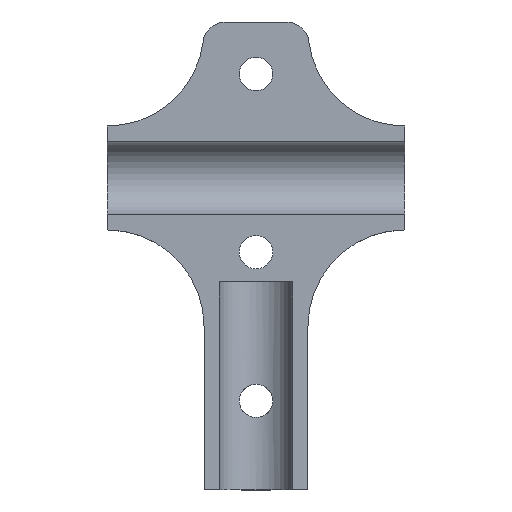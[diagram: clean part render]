
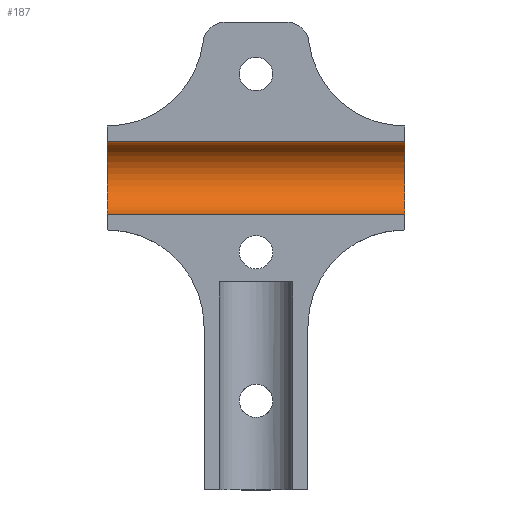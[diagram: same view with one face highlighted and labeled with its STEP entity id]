
A CAD part, top view. The second image highlights one B-rep face of the part: STEP entity #187.
In plain terms, the highlighted cylindrical face has radius 4.95 mm (diameter 9.9 mm), a partial arc.
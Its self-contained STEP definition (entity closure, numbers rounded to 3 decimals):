
#73=CARTESIAN_POINT('',(20.0,11.925,8.5));
#74=VERTEX_POINT('',#73);
#75=CARTESIAN_POINT('',(-20.0,11.925,8.5));
#76=VERTEX_POINT('',#75);
#77=CARTESIAN_POINT('',(20.0,11.925,8.5));
#78=DIRECTION('',(-1.0,0.0,0.0));
#79=VECTOR('',#78,40.0);
#80=LINE('',#77,#79);
#81=EDGE_CURVE('',#74,#76,#80,.T.);
#155=CARTESIAN_POINT('',(20.0,7.0,9.0));
#156=DIRECTION('',(-1.0,0.0,0.0));
#157=DIRECTION('',(0.0,0.0,1.0));
#158=AXIS2_PLACEMENT_3D('',#155,#156,#157);
#159=CYLINDRICAL_SURFACE('',#158,4.95);
#160=ORIENTED_EDGE('',*,*,#81,.T.);
#161=CARTESIAN_POINT('',(-20.0,2.05,9.0));
#162=VERTEX_POINT('',#161);
#163=CARTESIAN_POINT('',(-20.0,7.0,9.0));
#164=DIRECTION('',(1.0,0.0,0.0));
#165=DIRECTION('',(0.0,0.0,1.0));
#166=AXIS2_PLACEMENT_3D('',#163,#164,#165);
#167=CIRCLE('',#166,4.95);
#168=EDGE_CURVE('',#162,#76,#167,.T.);
#169=ORIENTED_EDGE('',*,*,#168,.F.);
#170=CARTESIAN_POINT('',(20.0,2.05,9.0));
#171=VERTEX_POINT('',#170);
#172=CARTESIAN_POINT('',(20.0,2.05,9.0));
#173=DIRECTION('',(-1.0,0.0,0.0));
#174=VECTOR('',#173,40.0);
#175=LINE('',#172,#174);
#176=EDGE_CURVE('',#171,#162,#175,.T.);
#177=ORIENTED_EDGE('',*,*,#176,.F.);
#178=CARTESIAN_POINT('',(20.0,7.0,9.0));
#179=DIRECTION('',(-1.0,0.0,0.0));
#180=DIRECTION('',(0.0,0.0,1.0));
#181=AXIS2_PLACEMENT_3D('',#178,#179,#180);
#182=CIRCLE('',#181,4.95);
#183=EDGE_CURVE('',#74,#171,#182,.T.);
#184=ORIENTED_EDGE('',*,*,#183,.F.);
#185=EDGE_LOOP('',(#160,#169,#177,#184));
#186=FACE_OUTER_BOUND('',#185,.T.);
#187=ADVANCED_FACE('',(#186),#159,.F.);
